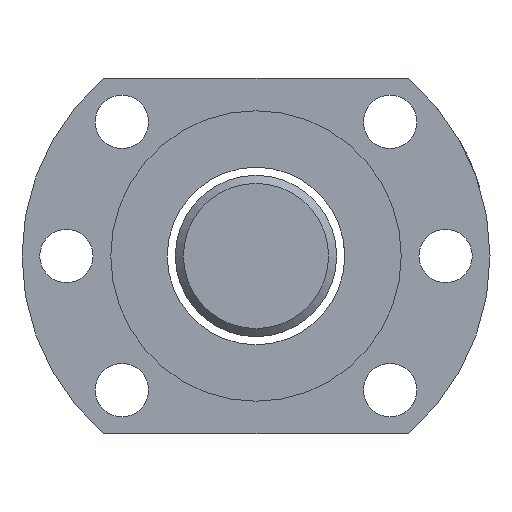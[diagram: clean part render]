
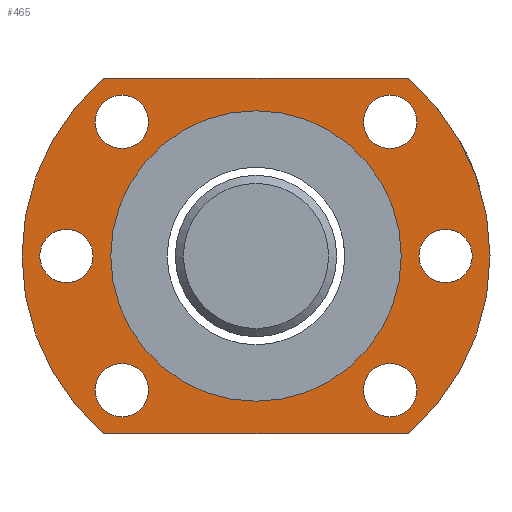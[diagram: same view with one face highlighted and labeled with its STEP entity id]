
A CAD part, left-side view. The second image highlights one B-rep face of the part: STEP entity #465.
In plain terms, the highlighted planar face has unit normal (-1, 0, 0).
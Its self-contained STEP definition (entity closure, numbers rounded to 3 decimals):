
#59=PLANE('',#541);
#74=CIRCLE('',#512,29.);
#80=CIRCLE('',#520,3.3);
#82=CIRCLE('',#523,3.3);
#84=CIRCLE('',#526,3.3);
#86=CIRCLE('',#529,3.3);
#88=CIRCLE('',#532,3.3);
#90=CIRCLE('',#535,3.3);
#91=CIRCLE('',#539,29.);
#93=CIRCLE('',#542,18.);
#140=ORIENTED_EDGE('',*,*,#236,.F.);
#141=ORIENTED_EDGE('',*,*,#206,.T.);
#142=ORIENTED_EDGE('',*,*,#228,.T.);
#143=ORIENTED_EDGE('',*,*,#234,.T.);
#144=ORIENTED_EDGE('',*,*,#231,.T.);
#145=ORIENTED_EDGE('',*,*,#217,.T.);
#146=ORIENTED_EDGE('',*,*,#225,.F.);
#147=ORIENTED_EDGE('',*,*,#227,.F.);
#148=ORIENTED_EDGE('',*,*,#219,.T.);
#149=ORIENTED_EDGE('',*,*,#223,.F.);
#150=ORIENTED_EDGE('',*,*,#221,.T.);
#206=EDGE_CURVE('',#257,#256,#74,.T.);
#217=EDGE_CURVE('',#267,#267,#80,.T.);
#219=EDGE_CURVE('',#269,#269,#82,.T.);
#221=EDGE_CURVE('',#271,#271,#84,.T.);
#223=EDGE_CURVE('',#273,#273,#86,.T.);
#225=EDGE_CURVE('',#275,#275,#88,.T.);
#227=EDGE_CURVE('',#277,#277,#90,.T.);
#228=EDGE_CURVE('',#256,#278,#298,.T.);
#231=EDGE_CURVE('',#280,#257,#301,.T.);
#234=EDGE_CURVE('',#278,#280,#91,.T.);
#236=EDGE_CURVE('',#282,#282,#93,.T.);
#256=VERTEX_POINT('',#712);
#257=VERTEX_POINT('',#714);
#267=VERTEX_POINT('',#755);
#269=VERTEX_POINT('',#760);
#271=VERTEX_POINT('',#765);
#273=VERTEX_POINT('',#770);
#275=VERTEX_POINT('',#775);
#277=VERTEX_POINT('',#780);
#278=VERTEX_POINT('',#783);
#280=VERTEX_POINT('',#789);
#282=VERTEX_POINT('',#798);
#298=LINE('',#782,#306);
#301=LINE('',#788,#309);
#306=VECTOR('',#630,1000.);
#309=VECTOR('',#635,1000.);
#331=EDGE_LOOP('',(#140));
#332=EDGE_LOOP('',(#141,#142,#143,#144));
#333=EDGE_LOOP('',(#145));
#334=EDGE_LOOP('',(#146));
#335=EDGE_LOOP('',(#147));
#336=EDGE_LOOP('',(#148));
#337=EDGE_LOOP('',(#149));
#338=EDGE_LOOP('',(#150));
#394=FACE_BOUND('',#331,.T.);
#395=FACE_BOUND('',#332,.T.);
#396=FACE_BOUND('',#333,.T.);
#397=FACE_BOUND('',#334,.T.);
#398=FACE_BOUND('',#335,.T.);
#399=FACE_BOUND('',#336,.T.);
#400=FACE_BOUND('',#337,.T.);
#401=FACE_BOUND('',#338,.T.);
#465=ADVANCED_FACE('',(#394,#395,#396,#397,#398,#399,#400,#401),#59,.T.);
#512=AXIS2_PLACEMENT_3D('',#713,#579,#580);
#520=AXIS2_PLACEMENT_3D('',#754,#596,#597);
#523=AXIS2_PLACEMENT_3D('',#759,#602,#603);
#526=AXIS2_PLACEMENT_3D('',#764,#608,#609);
#529=AXIS2_PLACEMENT_3D('',#769,#614,#615);
#532=AXIS2_PLACEMENT_3D('',#774,#620,#621);
#535=AXIS2_PLACEMENT_3D('',#779,#626,#627);
#539=AXIS2_PLACEMENT_3D('',#794,#640,#641);
#541=AXIS2_PLACEMENT_3D('',#796,#644,#645);
#542=AXIS2_PLACEMENT_3D('',#797,#646,#647);
#579=DIRECTION('',(-1.,0.,0.));
#580=DIRECTION('',(0.,0.,-1.));
#596=DIRECTION('',(1.,0.,0.));
#597=DIRECTION('',(0.,0.,1.));
#602=DIRECTION('',(1.,0.,0.));
#603=DIRECTION('',(0.,0.,1.));
#608=DIRECTION('',(1.,0.,0.));
#609=DIRECTION('',(0.,0.,1.));
#614=DIRECTION('',(-1.,0.,0.));
#615=DIRECTION('',(0.,0.,1.));
#620=DIRECTION('',(-1.,0.,0.));
#621=DIRECTION('',(0.,0.,1.));
#626=DIRECTION('',(-1.,0.,0.));
#627=DIRECTION('',(0.,0.,1.));
#630=DIRECTION('',(0.,1.,0.));
#635=DIRECTION('',(0.,-1.,0.));
#640=DIRECTION('',(-1.,0.,0.));
#641=DIRECTION('',(0.,0.,-1.));
#644=DIRECTION('',(-1.,0.,0.));
#645=DIRECTION('',(0.,0.,-1.));
#646=DIRECTION('',(-1.,0.,0.));
#647=DIRECTION('',(0.,0.,-1.));
#712=CARTESIAN_POINT('',(20.573,-58.533,41.458));
#713=CARTESIAN_POINT('',(20.573,-39.639,19.458));
#714=CARTESIAN_POINT('',(20.573,-58.533,-2.542));
#754=CARTESIAN_POINT('',(20.573,-56.256,36.075));
#755=CARTESIAN_POINT('',(20.573,-56.256,39.375));
#759=CARTESIAN_POINT('',(20.573,-63.139,19.458));
#760=CARTESIAN_POINT('',(20.573,-63.139,22.758));
#764=CARTESIAN_POINT('',(20.573,-56.256,2.841));
#765=CARTESIAN_POINT('',(20.573,-56.256,6.141));
#769=CARTESIAN_POINT('',(20.573,-23.022,2.841));
#770=CARTESIAN_POINT('',(20.573,-23.022,6.141));
#774=CARTESIAN_POINT('',(20.573,-23.022,36.075));
#775=CARTESIAN_POINT('',(20.573,-23.022,39.375));
#779=CARTESIAN_POINT('',(20.573,-16.139,19.458));
#780=CARTESIAN_POINT('',(20.573,-16.139,22.758));
#782=CARTESIAN_POINT('',(20.573,-58.533,41.458));
#783=CARTESIAN_POINT('',(20.573,-20.745,41.458));
#788=CARTESIAN_POINT('',(20.573,-20.745,-2.542));
#789=CARTESIAN_POINT('',(20.573,-20.745,-2.542));
#794=CARTESIAN_POINT('',(20.573,-39.639,19.458));
#796=CARTESIAN_POINT('',(20.573,-39.639,19.458));
#797=CARTESIAN_POINT('',(20.573,-39.639,19.458));
#798=CARTESIAN_POINT('',(20.573,-39.639,1.458));
